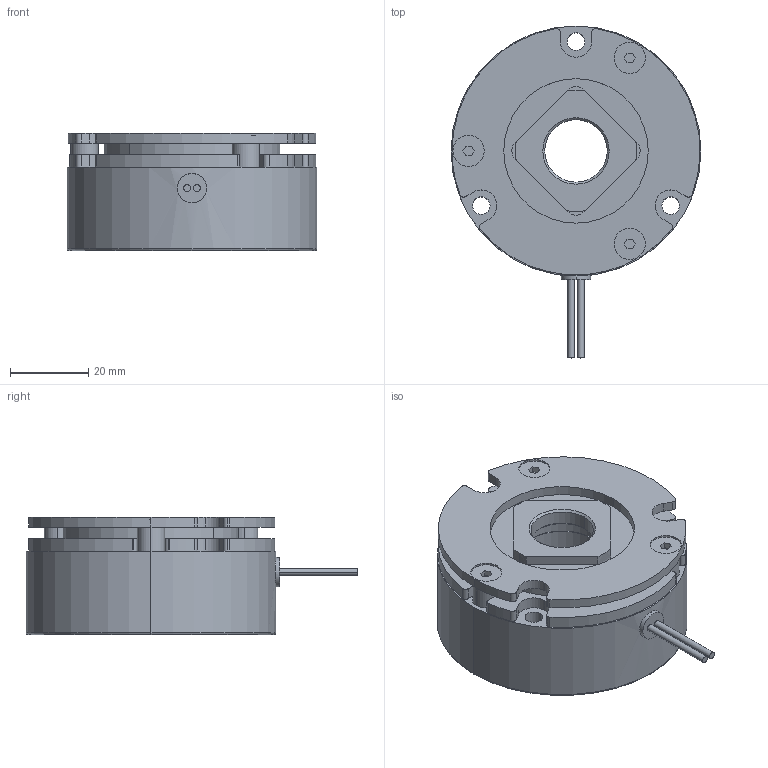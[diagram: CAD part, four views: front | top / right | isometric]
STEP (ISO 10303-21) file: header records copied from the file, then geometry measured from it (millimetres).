
FILE_DESCRIPTION (( 'STEP AP214' ), '1' );
FILE_NAME ('BXW-05-10R.STEP', '2018-10-10T07:52:32', ( 'MIKI' ), ( '' ), 'SwSTEP 2.0', 'SolidWorks 2012', '' );
FILE_SCHEMA (( 'AUTOMOTIVE_DESIGN' ));
Length unit declared in the file: millimetre
Products named in the file (1): BXW-05-10R
Bounding box: 64 x 85 x 30 mm (x, y, z)
Volume: 76752.3 mm3; surface area: 24839.1 mm2
Topology: 1 solids, 1 shells, 172 faces, 455 edges, 298 vertices
Faces by surface type: cylinder 97, plane 67, torus 4, cone 4
Entity records: 7427 total; most frequent: DIRECTION 1003, CARTESIAN_POINT 992, ORIENTED_EDGE 910, EDGE_CURVE 455, AXIS2_PLACEMENT_3D 377, VERTEX_POINT 298, LINE 249, VECTOR 249
